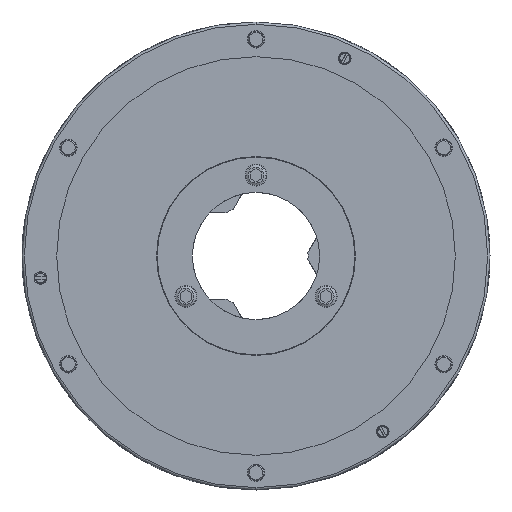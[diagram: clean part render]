
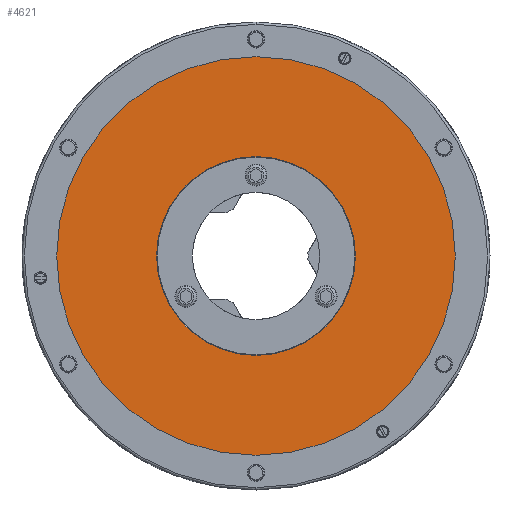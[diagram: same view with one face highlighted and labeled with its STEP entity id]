
A CAD part, left-side view. The second image highlights one B-rep face of the part: STEP entity #4621.
In plain terms, the highlighted planar face has unit normal (-1, 0, 0).
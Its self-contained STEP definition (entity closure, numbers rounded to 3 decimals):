
#37 = CARTESIAN_POINT ( 'NONE',  ( -112., 172.5, 0. ) ) ;
#158 = CIRCLE ( 'NONE', #12796, 172.5 ) ;
#936 = DIRECTION ( 'NONE',  ( 1., 0., 0. ) ) ;
#1890 = VERTEX_POINT ( 'NONE', #16722 ) ;
#2822 = DIRECTION ( 'NONE',  ( 1., 0., 0. ) ) ;
#2934 = VERTEX_POINT ( 'NONE', #8583 ) ;
#3322 = PLANE ( 'NONE',  #6838 ) ;
#3379 = CARTESIAN_POINT ( 'NONE',  ( -112., 0., -172.5 ) ) ;
#3713 = CIRCLE ( 'NONE', #21359, 86. ) ;
#4411 = VERTEX_POINT ( 'NONE', #14513 ) ;
#4519 = ORIENTED_EDGE ( 'NONE', *, *, #21860, .F. ) ;
#4621 = ADVANCED_FACE ( 'NONE', ( #12037, #17306 ), #3322, .T. ) ;
#5350 = EDGE_CURVE ( 'NONE', #1890, #7627, #17458, .T. ) ;
#5487 = CARTESIAN_POINT ( 'NONE',  ( -112., 0., 0. ) ) ;
#6838 = AXIS2_PLACEMENT_3D ( 'NONE', #37, #20690, #17081 ) ;
#7627 = VERTEX_POINT ( 'NONE', #3379 ) ;
#8443 = DIRECTION ( 'NONE',  ( 1., 0., 0. ) ) ;
#8583 = CARTESIAN_POINT ( 'NONE',  ( -112., 0., 86. ) ) ;
#8591 = AXIS2_PLACEMENT_3D ( 'NONE', #13035, #936, #18813 ) ;
#8801 = EDGE_CURVE ( 'NONE', #2934, #4411, #17214, .T. ) ;
#9562 = DIRECTION ( 'NONE',  ( 1., 0., 0. ) ) ;
#9570 = AXIS2_PLACEMENT_3D ( 'NONE', #14571, #2822, #16584 ) ;
#9657 = ORIENTED_EDGE ( 'NONE', *, *, #5350, .F. ) ;
#10580 = DIRECTION ( 'NONE',  ( 0., 0., -1. ) ) ;
#11704 = EDGE_LOOP ( 'NONE', ( #12287, #16211 ) ) ;
#11736 = EDGE_LOOP ( 'NONE', ( #4519, #9657 ) ) ;
#12037 = FACE_BOUND ( 'NONE', #11704, .T. ) ;
#12287 = ORIENTED_EDGE ( 'NONE', *, *, #8801, .T. ) ;
#12796 = AXIS2_PLACEMENT_3D ( 'NONE', #14718, #9562, #21589 ) ;
#13035 = CARTESIAN_POINT ( 'NONE',  ( -112., 0., 0. ) ) ;
#14513 = CARTESIAN_POINT ( 'NONE',  ( -112., 0., -86. ) ) ;
#14571 = CARTESIAN_POINT ( 'NONE',  ( -112., 0., 0. ) ) ;
#14718 = CARTESIAN_POINT ( 'NONE',  ( -112., 0., 0. ) ) ;
#16211 = ORIENTED_EDGE ( 'NONE', *, *, #17211, .T. ) ;
#16584 = DIRECTION ( 'NONE',  ( 0., 0., -1. ) ) ;
#16722 = CARTESIAN_POINT ( 'NONE',  ( -112., 0., 172.5 ) ) ;
#17081 = DIRECTION ( 'NONE',  ( 0., 0., 1. ) ) ;
#17211 = EDGE_CURVE ( 'NONE', #4411, #2934, #3713, .T. ) ;
#17214 = CIRCLE ( 'NONE', #8591, 86. ) ;
#17306 = FACE_OUTER_BOUND ( 'NONE', #11736, .T. ) ;
#17458 = CIRCLE ( 'NONE', #9570, 172.5 ) ;
#18813 = DIRECTION ( 'NONE',  ( 0., 0., -1. ) ) ;
#20690 = DIRECTION ( 'NONE',  ( -1., 0., 0. ) ) ;
#21359 = AXIS2_PLACEMENT_3D ( 'NONE', #5487, #8443, #10580 ) ;
#21589 = DIRECTION ( 'NONE',  ( 0., 0., -1. ) ) ;
#21860 = EDGE_CURVE ( 'NONE', #7627, #1890, #158, .T. ) ;
